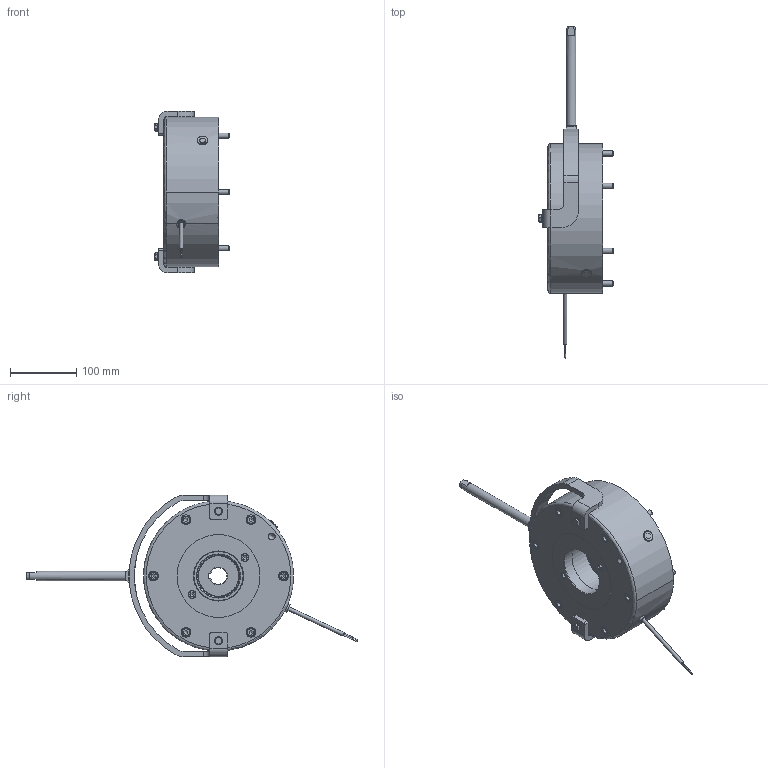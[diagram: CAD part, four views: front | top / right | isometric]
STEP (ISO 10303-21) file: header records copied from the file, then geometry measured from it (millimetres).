
FILE_DESCRIPTION(/* description */ (''),/* implementation_level */ '2;1');
FILE_NAME(/* name */ 'C:\SapWorkDir\Inventor\IP1\ConvertTempPath\5028815_IPT_000.ipt.stp',/* time_stamp */ '2020-09-18T14:46:40+02:00',/* author */ ('STRATE'),/* organization */ (''),/* preprocessor_version */ 'ST-DEVELOPER v17',/* originating_system */ 'Autodesk Inventor 2018',/* authorisation */ '');
FILE_SCHEMA (('AUTOMOTIVE_DESIGN { 1 0 10303 214 3 1 1 }'));
Length unit declared in the file: millimetre
Products named in the file (1): 5028815
Bounding box: 111.7 x 500.12 x 243 mm (x, y, z)
Volume: 2947239.2 mm3; surface area: 380039.2 mm2
Topology: 3 solids, 3 shells, 793 faces, 2118 edges, 1430 vertices
Faces by surface type: cylinder 386, plane 237, cone 135, torus 32, bspline 3
Full cylindrical faces by diameter (mm): 0.01 x1, 1 x2, 1.85 x2, 5.3 x1, 6 x5, 6.4 x4, 7 x1, 7.3 x2, 7.5 x2, 7.6 x1, 8 x9, 8.2 x6, 8.3 x3, 8.376 x1, 8.7 x6, 8.9 x2, 9.8 x2, 10 x9, 11 x2, 11.8 x2, 11.835 x2, 12 x2, 12.5 x6, 13 x6, 13.2 x1, 13.9 x6, 14 x1, 15 x6, 16 x3, 17 x2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
Entity records: 27114 total; most frequent: CARTESIAN_POINT 6081, DIRECTION 4312, ORIENTED_EDGE 4226, EDGE_CURVE 2113, AXIS2_PLACEMENT_3D 1802, VERTEX_POINT 1430, CIRCLE 1011, EDGE_LOOP 943
